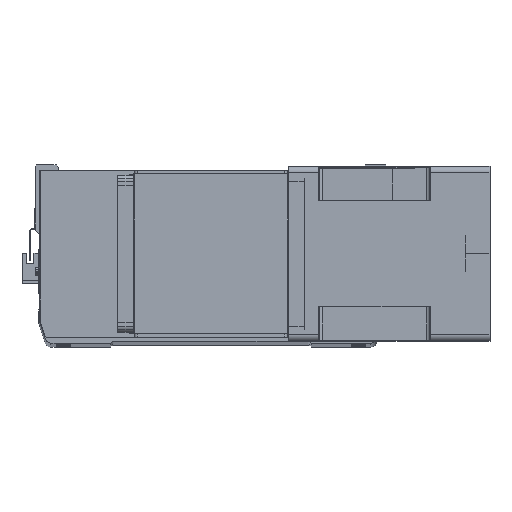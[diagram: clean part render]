
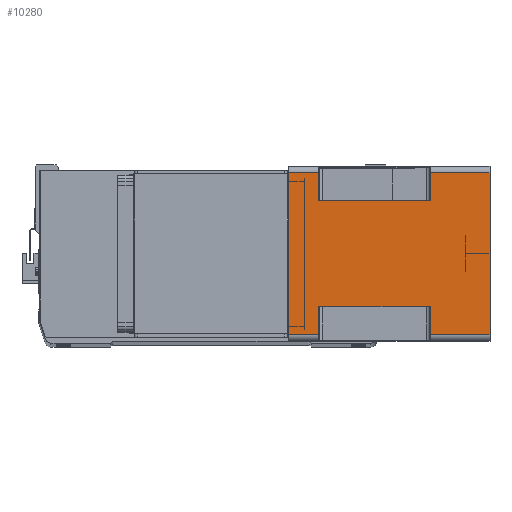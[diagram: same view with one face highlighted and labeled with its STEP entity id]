
A CAD part, top view. The second image highlights one B-rep face of the part: STEP entity #10280.
In plain terms, the highlighted planar face has unit normal (0, 0, 1) as drawn and (1, 0, 0) by its records, which use the part's own axes.
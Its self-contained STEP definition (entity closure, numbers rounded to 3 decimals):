
#1259 = CARTESIAN_POINT ( 'NONE',  ( 71., -43., -164. ) ) ;
#1454 = VECTOR ( 'NONE', #21005, 1000. ) ;
#2216 = LINE ( 'NONE', #28160, #1454 ) ;
#2626 = EDGE_CURVE ( 'NONE', #31138, #20977, #17993, .T. ) ;
#3096 = VERTEX_POINT ( 'NONE', #27345 ) ;
#3264 = DIRECTION ( 'NONE',  ( 0., -1., 0. ) ) ;
#3496 = LINE ( 'NONE', #1259, #23964 ) ;
#3817 = VECTOR ( 'NONE', #27160, 1000. ) ;
#3935 = DIRECTION ( 'NONE',  ( 0., 0., 1. ) ) ;
#4352 = CARTESIAN_POINT ( 'NONE',  ( 71., 43., -24.5 ) ) ;
#4918 = ORIENTED_EDGE ( 'NONE', *, *, #30903, .T. ) ;
#5137 = CARTESIAN_POINT ( 'NONE',  ( 71., 66., -164. ) ) ;
#5455 = VECTOR ( 'NONE', #13345, 1000. ) ;
#7157 = DIRECTION ( 'NONE',  ( 0., 1., 0. ) ) ;
#7198 = VECTOR ( 'NONE', #29782, 1000. ) ;
#7304 = PLANE ( 'NONE',  #11106 ) ;
#7513 = DIRECTION ( 'NONE',  ( 0., 1., 0. ) ) ;
#8352 = EDGE_CURVE ( 'NONE', #31138, #19933, #19215, .T. ) ;
#8492 = LINE ( 'NONE', #9471, #19691 ) ;
#8917 = CARTESIAN_POINT ( 'NONE',  ( 71., 43., -115.5 ) ) ;
#9231 = DIRECTION ( 'NONE',  ( 0., 1., 0. ) ) ;
#9264 = ORIENTED_EDGE ( 'NONE', *, *, #28905, .F. ) ;
#9354 = ORIENTED_EDGE ( 'NONE', *, *, #20899, .T. ) ;
#9436 = CARTESIAN_POINT ( 'NONE',  ( 71., -66., -24.5 ) ) ;
#9471 = CARTESIAN_POINT ( 'NONE',  ( 71., 43., -115.5 ) ) ;
#9487 = VECTOR ( 'NONE', #3264, 1000. ) ;
#10000 = DIRECTION ( 'NONE',  ( 1., 0., 0. ) ) ;
#10280 = ADVANCED_FACE ( 'NONE', ( #30188 ), #7304, .T. ) ;
#10856 = ORIENTED_EDGE ( 'NONE', *, *, #15471, .F. ) ;
#11106 = AXIS2_PLACEMENT_3D ( 'NONE', #24973, #10000, #7513 ) ;
#11251 = EDGE_CURVE ( 'NONE', #31136, #3096, #18345, .T. ) ;
#11331 = VECTOR ( 'NONE', #18627, 1000. ) ;
#11377 = DIRECTION ( 'NONE',  ( 0., 0., 1. ) ) ;
#12333 = VERTEX_POINT ( 'NONE', #16371 ) ;
#12914 = VERTEX_POINT ( 'NONE', #23457 ) ;
#12937 = EDGE_CURVE ( 'NONE', #31136, #13025, #3496, .T. ) ;
#13025 = VERTEX_POINT ( 'NONE', #16228 ) ;
#13345 = DIRECTION ( 'NONE',  ( 0., 0., 1. ) ) ;
#13843 = CARTESIAN_POINT ( 'NONE',  ( 71., 66., 0. ) ) ;
#14045 = CARTESIAN_POINT ( 'NONE',  ( 71., -66., -164. ) ) ;
#14182 = VERTEX_POINT ( 'NONE', #29429 ) ;
#14186 = VECTOR ( 'NONE', #7157, 1000. ) ;
#15027 = LINE ( 'NONE', #5137, #3817 ) ;
#15093 = LINE ( 'NONE', #30394, #5455 ) ;
#15471 = EDGE_CURVE ( 'NONE', #26436, #29882, #22894, .T. ) ;
#15478 = VECTOR ( 'NONE', #9231, 1000. ) ;
#16228 = CARTESIAN_POINT ( 'NONE',  ( 71., -43., -24.5 ) ) ;
#16339 = CARTESIAN_POINT ( 'NONE',  ( 71., -66., 0. ) ) ;
#16371 = CARTESIAN_POINT ( 'NONE',  ( 71., 66., -164. ) ) ;
#16919 = ORIENTED_EDGE ( 'NONE', *, *, #11251, .T. ) ;
#17111 = DIRECTION ( 'NONE',  ( 0., -1., 0. ) ) ;
#17783 = CARTESIAN_POINT ( 'NONE',  ( 71., 43., -164. ) ) ;
#17993 = LINE ( 'NONE', #17783, #7198 ) ;
#18054 = ORIENTED_EDGE ( 'NONE', *, *, #22288, .T. ) ;
#18099 = EDGE_LOOP ( 'NONE', ( #29572, #16919, #9264, #18054, #4918, #20938, #20917, #21022, #25021, #10856, #25291, #9354 ) ) ;
#18160 = LINE ( 'NONE', #28647, #15478 ) ;
#18345 = LINE ( 'NONE', #25723, #9487 ) ;
#18627 = DIRECTION ( 'NONE',  ( 0., 1., 0. ) ) ;
#19215 = LINE ( 'NONE', #9436, #14186 ) ;
#19691 = VECTOR ( 'NONE', #17111, 1000. ) ;
#19933 = VERTEX_POINT ( 'NONE', #25337 ) ;
#20370 = LINE ( 'NONE', #23883, #23071 ) ;
#20864 = CARTESIAN_POINT ( 'NONE',  ( 71., -66., 0. ) ) ;
#20899 = EDGE_CURVE ( 'NONE', #23788, #13025, #18160, .T. ) ;
#20917 = ORIENTED_EDGE ( 'NONE', *, *, #2626, .F. ) ;
#20938 = ORIENTED_EDGE ( 'NONE', *, *, #21499, .T. ) ;
#20977 = VERTEX_POINT ( 'NONE', #8917 ) ;
#21005 = DIRECTION ( 'NONE',  ( 0., 1., 0. ) ) ;
#21022 = ORIENTED_EDGE ( 'NONE', *, *, #8352, .T. ) ;
#21403 = CARTESIAN_POINT ( 'NONE',  ( 71., -43., -115.5 ) ) ;
#21499 = EDGE_CURVE ( 'NONE', #14182, #20977, #8492, .T. ) ;
#22288 = EDGE_CURVE ( 'NONE', #12914, #12333, #2216, .T. ) ;
#22894 = LINE ( 'NONE', #16339, #11331 ) ;
#23071 = VECTOR ( 'NONE', #31364, 1000. ) ;
#23457 = CARTESIAN_POINT ( 'NONE',  ( 71., -66., -164. ) ) ;
#23556 = VECTOR ( 'NONE', #11377, 1000. ) ;
#23788 = VERTEX_POINT ( 'NONE', #25726 ) ;
#23883 = CARTESIAN_POINT ( 'NONE',  ( 71., -66., -164. ) ) ;
#23964 = VECTOR ( 'NONE', #3935, 1000. ) ;
#24973 = CARTESIAN_POINT ( 'NONE',  ( 71., -66., -164. ) ) ;
#25021 = ORIENTED_EDGE ( 'NONE', *, *, #28374, .T. ) ;
#25291 = ORIENTED_EDGE ( 'NONE', *, *, #31221, .F. ) ;
#25337 = CARTESIAN_POINT ( 'NONE',  ( 71., 66., -24.5 ) ) ;
#25723 = CARTESIAN_POINT ( 'NONE',  ( 71., -66., -115.5 ) ) ;
#25726 = CARTESIAN_POINT ( 'NONE',  ( 71., -66., -24.5 ) ) ;
#26436 = VERTEX_POINT ( 'NONE', #20864 ) ;
#27160 = DIRECTION ( 'NONE',  ( 0., 0., 1. ) ) ;
#27345 = CARTESIAN_POINT ( 'NONE',  ( 71., -66., -115.5 ) ) ;
#28160 = CARTESIAN_POINT ( 'NONE',  ( 71., -66., -164. ) ) ;
#28374 = EDGE_CURVE ( 'NONE', #19933, #29882, #15093, .T. ) ;
#28647 = CARTESIAN_POINT ( 'NONE',  ( 71., -43., -24.5 ) ) ;
#28905 = EDGE_CURVE ( 'NONE', #12914, #3096, #30135, .T. ) ;
#29429 = CARTESIAN_POINT ( 'NONE',  ( 71., 66., -115.5 ) ) ;
#29572 = ORIENTED_EDGE ( 'NONE', *, *, #12937, .F. ) ;
#29782 = DIRECTION ( 'NONE',  ( 0., 0., -1. ) ) ;
#29882 = VERTEX_POINT ( 'NONE', #13843 ) ;
#30135 = LINE ( 'NONE', #14045, #23556 ) ;
#30188 = FACE_OUTER_BOUND ( 'NONE', #18099, .T. ) ;
#30394 = CARTESIAN_POINT ( 'NONE',  ( 71., 66., -164. ) ) ;
#30903 = EDGE_CURVE ( 'NONE', #12333, #14182, #15027, .T. ) ;
#31136 = VERTEX_POINT ( 'NONE', #21403 ) ;
#31138 = VERTEX_POINT ( 'NONE', #4352 ) ;
#31221 = EDGE_CURVE ( 'NONE', #23788, #26436, #20370, .T. ) ;
#31364 = DIRECTION ( 'NONE',  ( 0., 0., 1. ) ) ;
